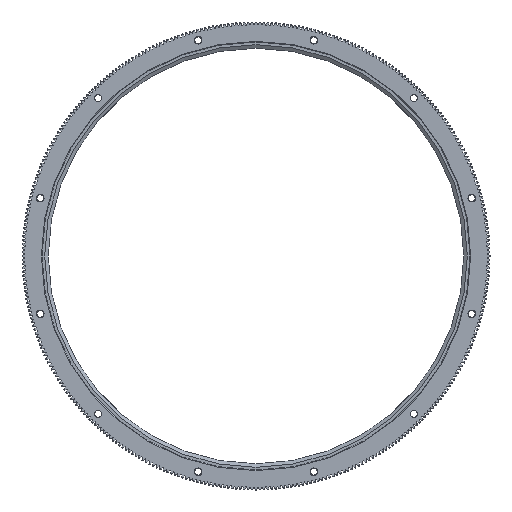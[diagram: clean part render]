
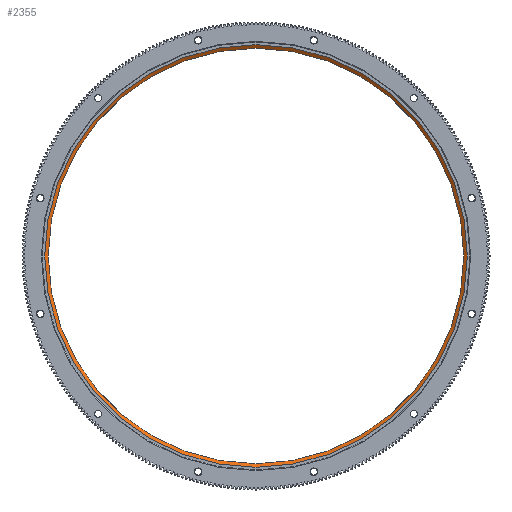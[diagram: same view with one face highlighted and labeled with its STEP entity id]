
A CAD part, front view. The second image highlights one B-rep face of the part: STEP entity #2355.
In plain terms, the highlighted conical face has half-angle 55 degrees and reference radius 166.215 mm.
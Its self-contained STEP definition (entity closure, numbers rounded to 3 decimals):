
#2355 = ADVANCED_FACE( '', ( #6989, #6990 ), #6991, .F. );
#6989 = FACE_OUTER_BOUND( '', #11651, .T. );
#6990 = FACE_BOUND( '', #11652, .T. );
#6991 = CONICAL_SURFACE( '', #11653, 166.215, 0.96 );
#11651 = EDGE_LOOP( '', ( #30162 ) );
#11652 = EDGE_LOOP( '', ( #30163 ) );
#11653 = AXIS2_PLACEMENT_3D( '', #30164, #30165, #30166 );
#30162 = ORIENTED_EDGE( '', *, *, #38844, .T. );
#30163 = ORIENTED_EDGE( '', *, *, #38843, .F. );
#30164 = CARTESIAN_POINT( '', ( 0., 9.59, 0. ) );
#30165 = DIRECTION( '', ( 0., -1., 0. ) );
#30166 = DIRECTION( '', ( 0., 0., -1. ) );
#38843 = EDGE_CURVE( '', #50132, #50132, #50133, .T. );
#38844 = EDGE_CURVE( '', #50134, #50134, #50135, .T. );
#50132 = VERTEX_POINT( '', #68493 );
#50133 = CIRCLE( '', #68494, 166.215 );
#50134 = VERTEX_POINT( '', #68495 );
#50135 = CIRCLE( '', #68496, 168.843 );
#68493 = CARTESIAN_POINT( '', ( 0., 9.59, -166.215 ) );
#68494 = AXIS2_PLACEMENT_3D( '', #76884, #76885, #76886 );
#68495 = CARTESIAN_POINT( '', ( 0., 7.75, -168.843 ) );
#68496 = AXIS2_PLACEMENT_3D( '', #76887, #76888, #76889 );
#76884 = CARTESIAN_POINT( '', ( 0., 9.59, 0. ) );
#76885 = DIRECTION( '', ( 0., -1., 0. ) );
#76886 = DIRECTION( '', ( 0., 0., -1. ) );
#76887 = CARTESIAN_POINT( '', ( 0., 7.75, 0. ) );
#76888 = DIRECTION( '', ( 0., -1., 0. ) );
#76889 = DIRECTION( '', ( 0., 0., -1. ) );
